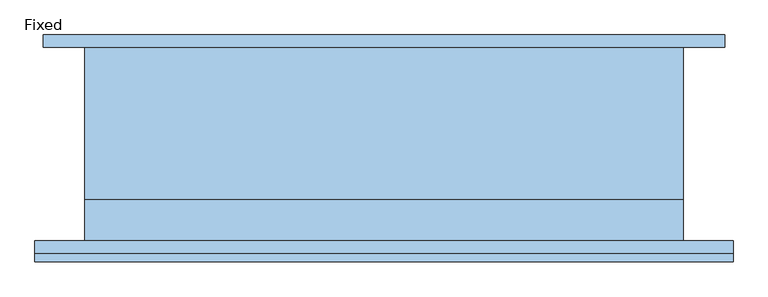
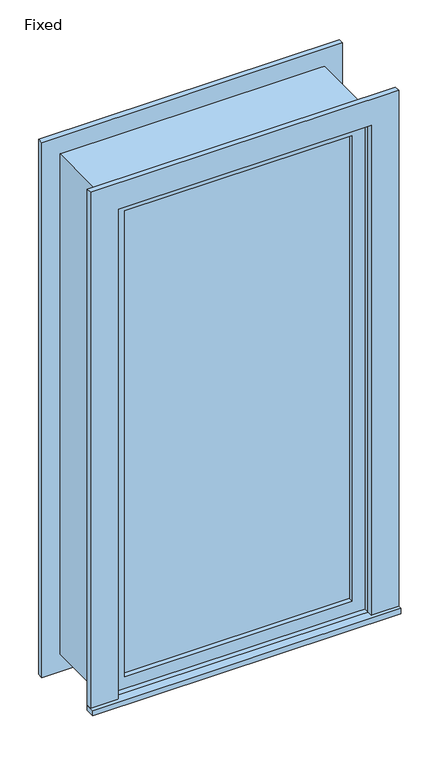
"""IFC4 building model written with IfcOpenShell, lengths in millimetres: window geometry."""

from ifc_helpers import new_model, si_unit, frame, origin, place, context, project, spatial, polyline, outline, extrude, source, transform, mapped, element, save


def fixed_81e87f0c(model_context):
    return source(origin(), model_context, "Body", "SweptSolid", [
        extrude(outline(polyline([(-571.5, -179.3875), (-571.5, -147.6375), (495.3, -147.6375), (495.3, -179.3875), (-571.5, -179.3875)])), frame((0.0, 0.0, 304.8), z_axis=(0.0, 0.0, 1.0), x_axis=(1.0, 0.0, 0.0)), (0.0, 0.0, 1.0), 19.05),
        extrude(outline(polyline([(2114.55, -476.25), (2114.55, 400.05), (323.85, 400.05), (323.85, 495.3), (2209.8, 495.3), (2209.8, -571.5), (323.85, -571.5), (323.85, -476.25), (2114.55, -476.25)])), frame((0.0, -166.6875, 0.0), z_axis=(0.0, 1.0, 0.0), x_axis=(0.0, 0.0, 1.0)), (0.0, 0.0, 1.0), 19.05),
        extrude(outline(polyline([(2197.1, 482.6), (2197.1, -558.8), (241.3, -558.8), (241.3, 482.6), (2197.1, 482.6)]), holes=[polyline([(2101.85, 387.35), (336.55, 387.35), (336.55, -463.55), (2101.85, -463.55), (2101.85, 387.35)])]), frame((0.0, 147.6375, 0.0), z_axis=(0.0, 1.0, 0.0), x_axis=(0.0, 0.0, 1.0)), (0.0, 0.0, 1.0), 19.05),
        extrude(outline(polyline([(355.6, -100.0125), (355.6, -112.7125), (-431.8, -112.7125), (-431.8, -100.0125), (355.6, -100.0125)])), frame((0.0, 0.0, 368.3), z_axis=(0.0, 0.0, 1.0), x_axis=(1.0, 0.0, 0.0)), (0.0, 0.0, 1.0), 1701.8),
        extrude(outline(polyline([(2114.55, -476.25), (323.85, -476.25), (323.85, 400.05), (2114.55, 400.05), (2114.55, -476.25)]), holes=[polyline([(2070.1, -431.8), (2070.1, 355.6), (368.3, 355.6), (368.3, -431.8), (2070.1, -431.8)])]), frame((0.0, -128.5875, 0.0), z_axis=(0.0, 1.0, 0.0), x_axis=(0.0, 0.0, 1.0)), (0.0, 0.0, 1.0), 44.45),
        extrude(outline(polyline([(2133.6, -495.3), (304.8, -495.3), (304.8, 419.1), (2133.6, 419.1), (2133.6, -495.3)]), holes=[polyline([(2101.85, -463.55), (2101.85, 387.35), (336.55, 387.35), (336.55, -463.55), (2101.85, -463.55)])]), frame((0.0, -84.1375, 0.0), z_axis=(0.0, 1.0, 0.0), x_axis=(0.0, 0.0, 1.0)), (0.0, 0.0, 1.0), 231.775),
        extrude(outline(polyline([(2133.6, 419.1), (2133.6, -495.3), (304.8, -495.3), (304.8, 419.1), (2133.6, 419.1)]), holes=[polyline([(2114.55, 400.05), (323.85, 400.05), (323.85, -476.25), (2114.55, -476.25), (2114.55, 400.05)])]), frame((0.0, -147.6375, 0.0), z_axis=(0.0, 1.0, 0.0), x_axis=(0.0, 0.0, 1.0)), (0.0, 0.0, 1.0), 63.5),
    ])


if __name__ == "__main__":
    model = new_model("IFC4")
    model_context = context("Model", 3, world=origin())
    ifc_project = project(units=[si_unit("LENGTHUNIT", "METRE", prefix="MILLI")], contexts=[model_context])
    site = spatial("IfcSite", under=ifc_project)
    building = spatial("IfcBuilding", under=site)
    placement = place(None, origin())
    fixed_shape = fixed_81e87f0c(model_context)
    element("IfcWindow", 1, ObjectType="Fixed : 36\"w x 72\"h", at=placement, inside=building, context=model_context, shape_type="MappedRepresentation", body=[
        mapped(fixed_shape, transform((0.0, 0.0, 0.0), x_axis=(1.0, 0.0, 0.0), y_axis=(0.0, 1.0, 0.0), z_axis=(0.0, 0.0, 1.0))),
    ])
    save(model, "model.ifc")
